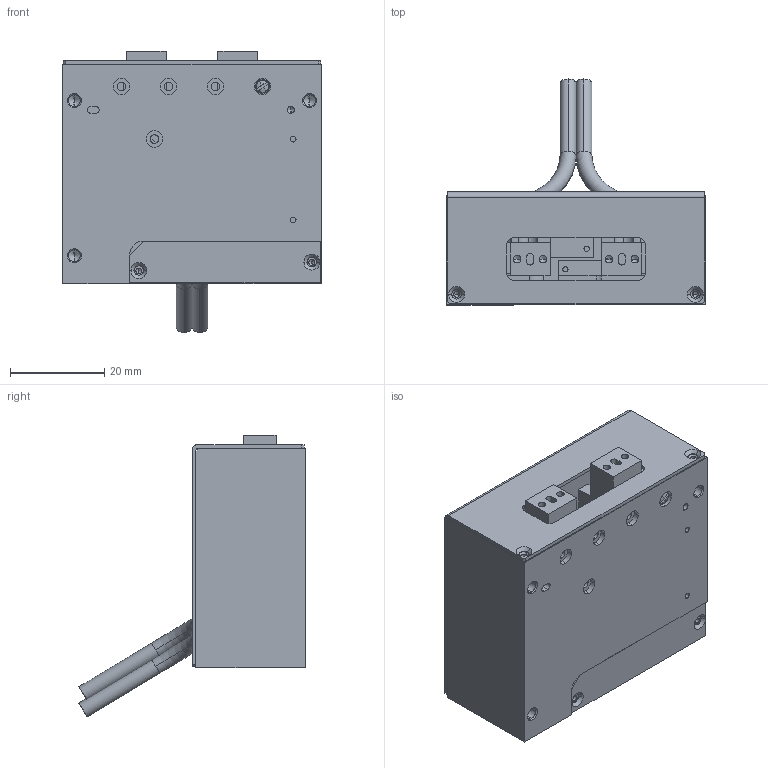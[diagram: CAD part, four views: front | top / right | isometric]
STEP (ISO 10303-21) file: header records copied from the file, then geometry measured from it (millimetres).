
FILE_DESCRIPTION (( 'STEP AP203' ), '1' );
FILE_NAME ('MGR7-010-51-1-X_B_STEP.STEP', '2019-11-14T17:32:23', ( '' ), ( '' ), 'SwSTEP 2.0', 'SolidWorks 2018', '' );
FILE_SCHEMA (( 'CONFIG_CONTROL_DESIGN' ));
Length unit declared in the file: millimetre
Products named in the file (9): 230125-01_A; FLY-P0107-005_B_001; 120087-01_B; 120086-01_B; MGR7-010-51-1-X_B_STEP; 110110-01_B; 240791-01_A; 230124-01_A; 56031-03, SCREW, CHSLOT, M1.6X3_M1.6
Assembly tree (11 placements, depth 2):
  MGR7-010-51-1-X_B_STEP
    110110-01_B
    240791-01_A
    230124-01_A
    56031-03, SCREW, CHSLOT, M1.6X3_M1.6
    230125-01_A
    FLY-P0107-005_B_001  x4
    120087-01_B
    120086-01_B
Bounding box: 55 x 48.09 x 59.91 mm (x, y, z)
Volume: 20675.7 mm3; surface area: 29132.4 mm2
Topology: 12 solids, 12 shells, 667 faces, 1765 edges, 1110 vertices
Faces by surface type: plane 275, cylinder 267, cone 110, torus 11, sphere 4
Entity records: 20884 total; most frequent: DIRECTION 3571, CARTESIAN_POINT 3452, ORIENTED_EDGE 3310, EDGE_CURVE 1655, AXIS2_PLACEMENT_3D 1269, VERTEX_POINT 1074, LINE 1033, VECTOR 1033
